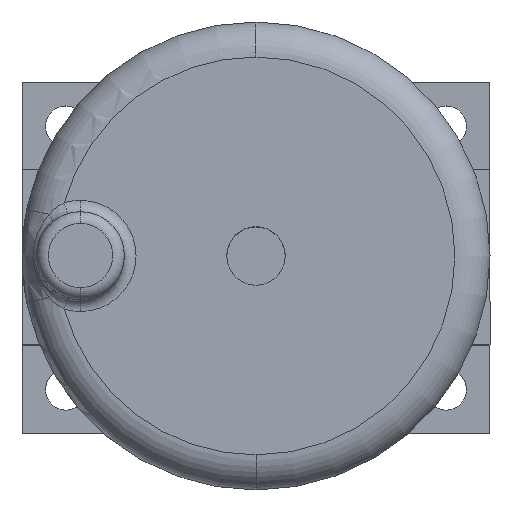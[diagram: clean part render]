
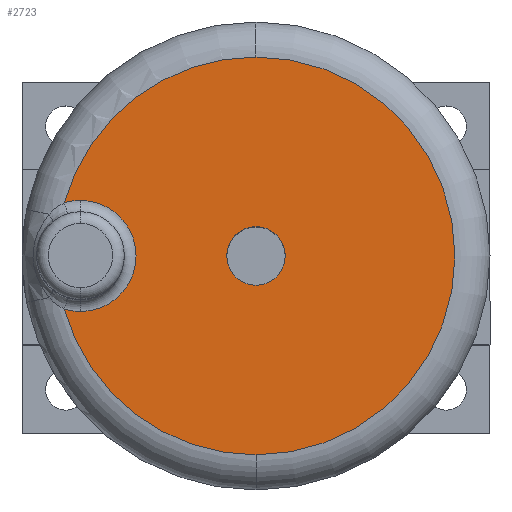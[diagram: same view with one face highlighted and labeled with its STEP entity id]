
A CAD part, top view. The second image highlights one B-rep face of the part: STEP entity #2723.
In plain terms, the highlighted planar face has unit normal (0, 0, 1) as drawn and (1, 0, 0) by its records, which use the part's own axes.
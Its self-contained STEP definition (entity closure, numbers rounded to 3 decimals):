
#27 = DIRECTION ( 'NONE',  ( 1., 0., 0. ) ) ;
#119 = CIRCLE ( 'NONE', #1212, 34. ) ;
#124 = CIRCLE ( 'NONE', #1573, 34. ) ;
#240 = VERTEX_POINT ( 'NONE', #1636 ) ;
#314 = VERTEX_POINT ( 'NONE', #3359 ) ;
#348 = EDGE_LOOP ( 'NONE', ( #1267, #3474, #2893, #1724, #417, #2666 ) ) ;
#417 = ORIENTED_EDGE ( 'NONE', *, *, #1194, .T. ) ;
#419 = EDGE_LOOP ( 'NONE', ( #1300, #3113 ) ) ;
#440 = CIRCLE ( 'NONE', #2027, 9.5 ) ;
#446 = CARTESIAN_POINT ( 'NONE',  ( 46., 32.763, -9.089 ) ) ;
#470 = DIRECTION ( 'NONE',  ( 1., 0., 0. ) ) ;
#579 = CARTESIAN_POINT ( 'NONE',  ( 46., 30., -9.5 ) ) ;
#604 = DIRECTION ( 'NONE',  ( -1., 0., 0. ) ) ;
#675 = CARTESIAN_POINT ( 'NONE',  ( 46., 0., 0. ) ) ;
#807 = PLANE ( 'NONE',  #1007 ) ;
#856 = DIRECTION ( 'NONE',  ( 0., 0., 1. ) ) ;
#861 = CARTESIAN_POINT ( 'NONE',  ( 46., 0., 34. ) ) ;
#934 = EDGE_CURVE ( 'NONE', #2533, #1153, #440, .T. ) ;
#959 = CARTESIAN_POINT ( 'NONE',  ( 46., 0., 5. ) ) ;
#972 = DIRECTION ( 'NONE',  ( 1., 0., 0. ) ) ;
#989 = CARTESIAN_POINT ( 'NONE',  ( 46., 30., 0. ) ) ;
#1007 = AXIS2_PLACEMENT_3D ( 'NONE', #3080, #2166, #3563 ) ;
#1076 = DIRECTION ( 'NONE',  ( -1., 0., 0. ) ) ;
#1153 = VERTEX_POINT ( 'NONE', #579 ) ;
#1170 = DIRECTION ( 'NONE',  ( 0., 0., 1. ) ) ;
#1184 = VERTEX_POINT ( 'NONE', #861 ) ;
#1194 = EDGE_CURVE ( 'NONE', #1153, #314, #1208, .T. ) ;
#1208 = CIRCLE ( 'NONE', #3132, 9.5 ) ;
#1212 = AXIS2_PLACEMENT_3D ( 'NONE', #3249, #2973, #3261 ) ;
#1260 = DIRECTION ( 'NONE',  ( 0., 0., -1. ) ) ;
#1267 = ORIENTED_EDGE ( 'NONE', *, *, #2494, .T. ) ;
#1300 = ORIENTED_EDGE ( 'NONE', *, *, #3503, .F. ) ;
#1408 = CARTESIAN_POINT ( 'NONE',  ( 46., 30., 0. ) ) ;
#1409 = EDGE_CURVE ( 'NONE', #314, #3365, #2317, .T. ) ;
#1573 = AXIS2_PLACEMENT_3D ( 'NONE', #1674, #27, #856 ) ;
#1636 = CARTESIAN_POINT ( 'NONE',  ( 46., 0., -5. ) ) ;
#1674 = CARTESIAN_POINT ( 'NONE',  ( 46., 0., 0. ) ) ;
#1714 = VERTEX_POINT ( 'NONE', #959 ) ;
#1724 = ORIENTED_EDGE ( 'NONE', *, *, #934, .T. ) ;
#1935 = AXIS2_PLACEMENT_3D ( 'NONE', #3088, #470, #2146 ) ;
#2027 = AXIS2_PLACEMENT_3D ( 'NONE', #3302, #1076, #2203 ) ;
#2085 = FACE_BOUND ( 'NONE', #419, .T. ) ;
#2146 = DIRECTION ( 'NONE',  ( 0., 0., -1. ) ) ;
#2166 = DIRECTION ( 'NONE',  ( -1., 0., 0. ) ) ;
#2178 = AXIS2_PLACEMENT_3D ( 'NONE', #989, #3544, #2702 ) ;
#2203 = DIRECTION ( 'NONE',  ( 0., 0., 1. ) ) ;
#2317 = CIRCLE ( 'NONE', #2178, 9.5 ) ;
#2332 = CARTESIAN_POINT ( 'NONE',  ( 46., 0., -34. ) ) ;
#2494 = EDGE_CURVE ( 'NONE', #3365, #1184, #2618, .T. ) ;
#2533 = VERTEX_POINT ( 'NONE', #446 ) ;
#2618 = CIRCLE ( 'NONE', #2641, 34. ) ;
#2637 = CARTESIAN_POINT ( 'NONE',  ( 46., 32.763, 9.089 ) ) ;
#2640 = DIRECTION ( 'NONE',  ( 1., 0., 0. ) ) ;
#2641 = AXIS2_PLACEMENT_3D ( 'NONE', #675, #2640, #1170 ) ;
#2662 = CIRCLE ( 'NONE', #3300, 5. ) ;
#2666 = ORIENTED_EDGE ( 'NONE', *, *, #1409, .T. ) ;
#2672 = EDGE_CURVE ( 'NONE', #3405, #2533, #124, .T. ) ;
#2702 = DIRECTION ( 'NONE',  ( 0., 0., 1. ) ) ;
#2723 = ADVANCED_FACE ( 'NONE', ( #3015, #2085 ), #807, .F. ) ;
#2893 = ORIENTED_EDGE ( 'NONE', *, *, #2672, .T. ) ;
#2973 = DIRECTION ( 'NONE',  ( 1., 0., 0. ) ) ;
#3015 = FACE_OUTER_BOUND ( 'NONE', #348, .T. ) ;
#3075 = EDGE_CURVE ( 'NONE', #1714, #240, #3505, .T. ) ;
#3080 = CARTESIAN_POINT ( 'NONE',  ( 46., 0., 0. ) ) ;
#3088 = CARTESIAN_POINT ( 'NONE',  ( 46., 0., 0. ) ) ;
#3113 = ORIENTED_EDGE ( 'NONE', *, *, #3075, .F. ) ;
#3132 = AXIS2_PLACEMENT_3D ( 'NONE', #1408, #604, #3404 ) ;
#3226 = CARTESIAN_POINT ( 'NONE',  ( 46., 0., 0. ) ) ;
#3249 = CARTESIAN_POINT ( 'NONE',  ( 46., 0., 0. ) ) ;
#3261 = DIRECTION ( 'NONE',  ( 0., 0., 1. ) ) ;
#3300 = AXIS2_PLACEMENT_3D ( 'NONE', #3226, #972, #1260 ) ;
#3302 = CARTESIAN_POINT ( 'NONE',  ( 46., 30., 0. ) ) ;
#3359 = CARTESIAN_POINT ( 'NONE',  ( 46., 30., 9.5 ) ) ;
#3365 = VERTEX_POINT ( 'NONE', #2637 ) ;
#3404 = DIRECTION ( 'NONE',  ( 0., 0., 1. ) ) ;
#3405 = VERTEX_POINT ( 'NONE', #2332 ) ;
#3474 = ORIENTED_EDGE ( 'NONE', *, *, #3545, .T. ) ;
#3503 = EDGE_CURVE ( 'NONE', #240, #1714, #2662, .T. ) ;
#3505 = CIRCLE ( 'NONE', #1935, 5. ) ;
#3544 = DIRECTION ( 'NONE',  ( -1., 0., 0. ) ) ;
#3545 = EDGE_CURVE ( 'NONE', #1184, #3405, #119, .T. ) ;
#3563 = DIRECTION ( 'NONE',  ( 0., 0., 1. ) ) ;
